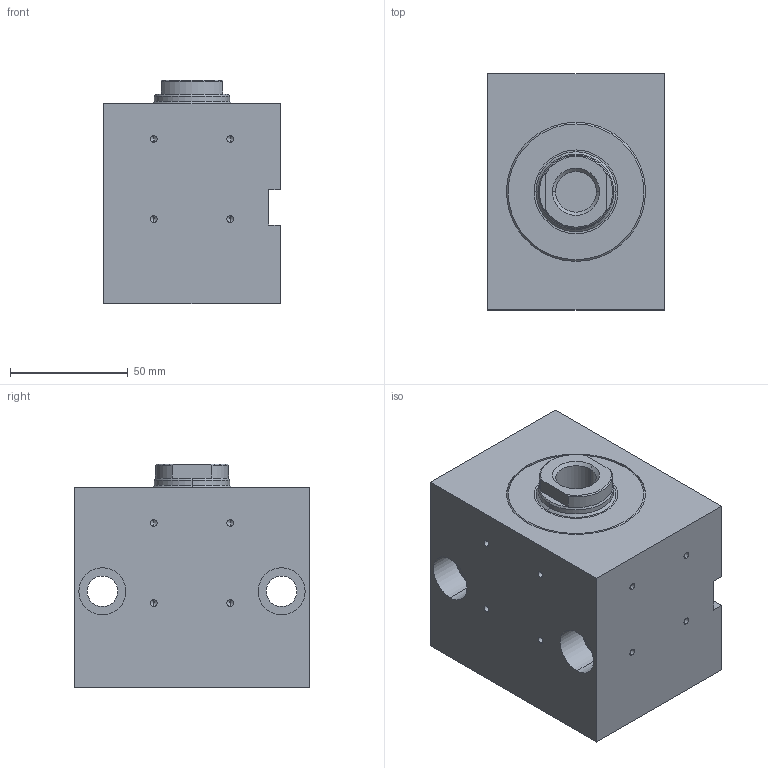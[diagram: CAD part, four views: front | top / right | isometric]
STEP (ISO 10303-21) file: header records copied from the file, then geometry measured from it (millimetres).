
FILE_DESCRIPTION (( 'STEP AP203' ), '1' );
FILE_NAME ('BZ_500.50_32.33.201.020 PP.NS44__DH_0_.STEP', '2022-05-30T08:26:02', ( '' ), ( '' ), 'SwSTEP 2.0', 'SolidWorks 2020', '' );
FILE_SCHEMA (( 'CONFIG_CONTROL_DESIGN' ));
Length unit declared in the file: millimetre
Products named in the file (7): _O-Ring 9x2 - Art. 104351^BZ_500.50_32.33.201.020 PP.NS44__DH_0_(2)_BZ_500.50_32.33.201.020 PP.NS44__DH_0_; _Dichtungssatz f. BZ_RZ_FZ.50_32.xx.201.20 Artikelnr._ 013676(0)^BZ_500.50_32.33.201.020 PP.NS44__DH_0_(2)_BZ_500.50_32.33.201.020 PP.NS44__DH_0_; _Gehaeuse f. BZ500.50_32.33.201.20.N1.m (m = Nut spiegelbildlich44)Nut rechts, Senkungen links00(144frei1330220))7^BZ_500.50_32.33.201.020 PP.NS44__DH_0_(2)_BZ_500.50_32.33.201.020 PP.NS44__DH~; _Kolbenstange komplett f. BZ_RZ_FZ.50_32.xx.201.20(0_11 1 20 2.5 0 0 10 30 0 0 0)0^BZ_500.50_32.33.201.020 PP.NS44__DH_0_(2)_BZ_500.50_32.33.201.020 PP.NS44__DH_0_; BZ_500.50_32.33.201.020 PP.NS44__DH_0_; _Verschraubung komplett mit Dichtung f. BZ_RZ_FZ.50_32.201, Art.-Nr._ 042986(201)^BZ_500.50_32.33.201.020 PP.NS44__DH_0_(2)_BZ_500.50_32.33.201.020 PP.NS44__DH_0_; BZ_500.50_32.33.201.020 PP.NS44__DH_0_(2)^BZ_500.50_32.33.201.020 PP.NS44__DH_0_
Assembly tree (7 placements, depth 3):
  BZ_500.50_32.33.201.020 PP.NS44__DH_0_
    BZ_500.50_32.33.201.020 PP.NS44__DH_0_(2)^BZ_500.50_32.33.201.020 PP.NS44__DH_0_
      _Gehaeuse f. BZ500.50_32.33.201.20.N1.m (m = Nut spiegelbildlich44)Nut rechts, Senkungen links00(144frei1330220))7^BZ_500.50_32.33.201.020 PP.NS44__DH_0_(2)_BZ_500.50_32.33.201.020 PP.NS44__DH~
      _Verschraubung komplett mit Dichtung f. BZ_RZ_FZ.50_32.201, Art.-Nr._ 042986(201)^BZ_500.50_32.33.201.020 PP.NS44__DH_0_(2)_BZ_500.50_32.33.201.020 PP.NS44__DH_0_
      _Dichtungssatz f. BZ_RZ_FZ.50_32.xx.201.20 Artikelnr._ 013676(0)^BZ_500.50_32.33.201.020 PP.NS44__DH_0_(2)_BZ_500.50_32.33.201.020 PP.NS44__DH_0_
      _Kolbenstange komplett f. BZ_RZ_FZ.50_32.xx.201.20(0_11 1 20 2.5 0 0 10 30 0 0 0)0^BZ_500.50_32.33.201.020 PP.NS44__DH_0_(2)_BZ_500.50_32.33.201.020 PP.NS44__DH_0_
      _O-Ring 9x2 - Art. 104351^BZ_500.50_32.33.201.020 PP.NS44__DH_0_(2)_BZ_500.50_32.33.201.020 PP.NS44__DH_0_  x2
Bounding box: 75 x 100 x 95 mm (x, y, z)
Volume: 580748 mm3; surface area: 95758.1 mm2
Topology: 6 solids, 6 shells, 154 faces, 354 edges, 210 vertices
Faces by surface type: cylinder 70, plane 38, cone 34, torus 12
Entity records: 4874 total; most frequent: DIRECTION 785, CARTESIAN_POINT 759, ORIENTED_EDGE 628, AXIS2_PLACEMENT_3D 324, EDGE_CURVE 314, VERTEX_POINT 200, EDGE_LOOP 182, CIRCLE 167
